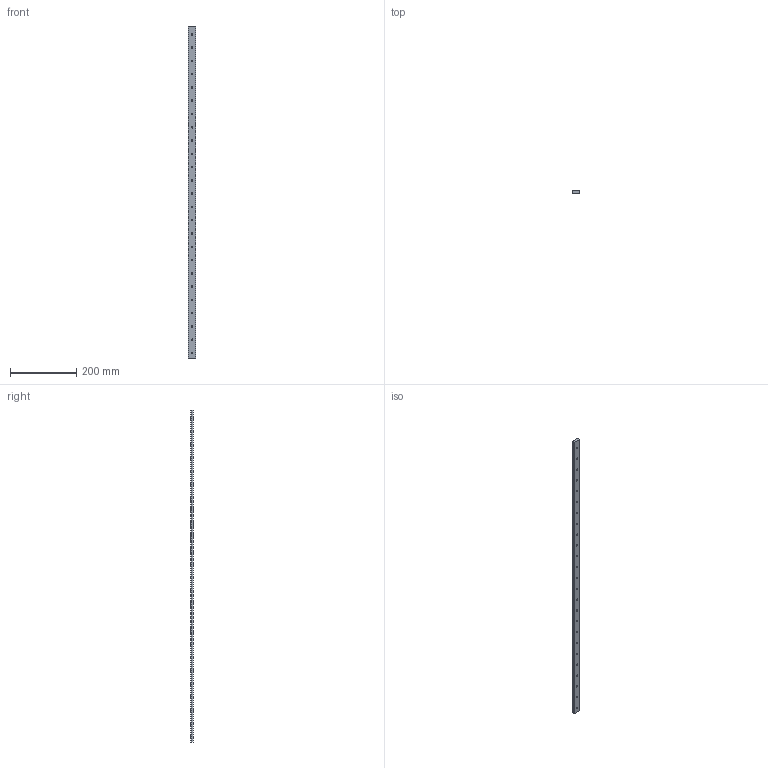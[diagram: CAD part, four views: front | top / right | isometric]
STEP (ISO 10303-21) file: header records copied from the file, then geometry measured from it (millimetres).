
FILE_DESCRIPTION (( 'STEP AP214' ), '1' );
FILE_NAME ('2.0019 Lineaarijohde MGW12 1000 mm.STEP', '2024-04-22T10:27:57', ( '' ), ( '' ), 'SwSTEP 2.0', 'SolidWorks 2024', '' );
FILE_SCHEMA (( 'AUTOMOTIVE_DESIGN' ));
Length unit declared in the file: millimetre
Products named in the file (1): 2.0019 Lineaarijohde MGW12 1000 mm
Bounding box: 24 x 8.5 x 1000 mm (x, y, z)
Volume: 191526 mm3; surface area: 70760.2 mm2
Topology: 1 solids, 1 shells, 140 faces, 339 edges, 226 vertices
Faces by surface type: cylinder 103, plane 37
Entity records: 4332 total; most frequent: DIRECTION 827, CARTESIAN_POINT 706, ORIENTED_EDGE 678, AXIS2_PLACEMENT_3D 347, EDGE_CURVE 339, VERTEX_POINT 226, EDGE_LOOP 215, CIRCLE 206
